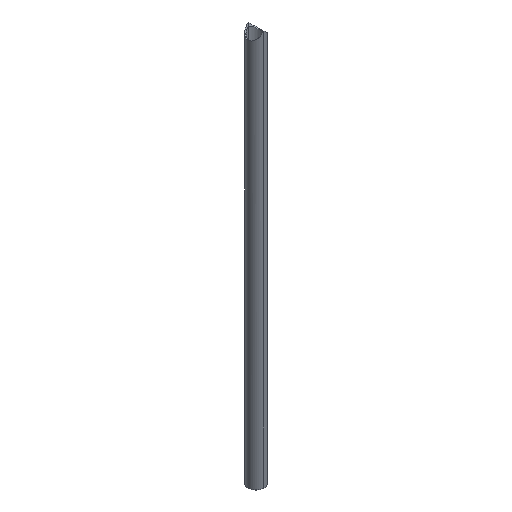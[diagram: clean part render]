
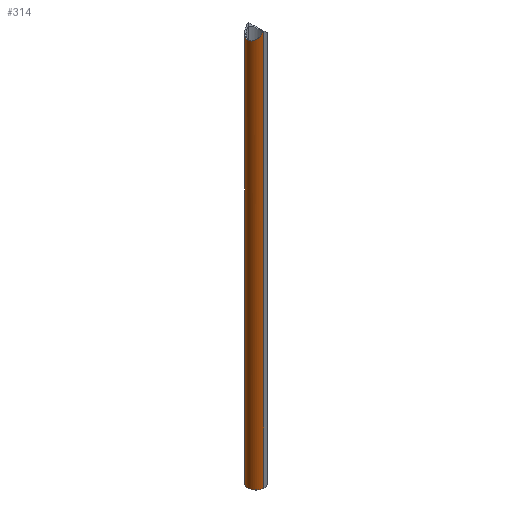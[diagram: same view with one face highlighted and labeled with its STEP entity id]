
A CAD part, isometric view. The second image highlights one B-rep face of the part: STEP entity #314.
In plain terms, the highlighted cylindrical face has radius 24.15 mm (diameter 48.3 mm), a partial arc.
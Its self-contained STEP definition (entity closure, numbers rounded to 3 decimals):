
#7 = FACE_OUTER_BOUND ( 'NONE', #196, .T. ) ;
#25 = VECTOR ( 'NONE', #59, 1000. ) ;
#41 = CARTESIAN_POINT ( 'NONE',  ( 7979., -71., 3495.85 ) ) ;
#44 = CARTESIAN_POINT ( 'NONE',  ( 7930.7, -71., 3447.55 ) ) ;
#46 = ORIENTED_EDGE ( 'NONE', *, *, #151, .T. ) ;
#48 = VECTOR ( 'NONE', #295, 1000. ) ;
#59 = DIRECTION ( 'NONE',  ( 0., 0., -1. ) ) ;
#66 = CARTESIAN_POINT ( 'NONE',  ( 7979., -71., 3495.85 ) ) ;
#68 = VERTEX_POINT ( 'NONE', #238 ) ;
#80 = CIRCLE ( 'NONE', #289, 24.15 ) ;
#84 = CARTESIAN_POINT ( 'NONE',  ( 7979., -95.15, 2290. ) ) ;
#93 = DIRECTION ( 'NONE',  ( 0., 1., 0. ) ) ;
#111 = CARTESIAN_POINT ( 'NONE',  ( 7930.7, -119.3, 3447.55 ) ) ;
#113 = DIRECTION ( 'NONE',  ( 0., 0., 1. ) ) ;
#117 = CYLINDRICAL_SURFACE ( 'NONE', #332, 24.15 ) ;
#118 = EDGE_CURVE ( 'NONE', #303, #146, #249, .T. ) ;
#144 = CARTESIAN_POINT ( 'NONE',  ( 7979., -119.3, 3495.85 ) ) ;
#146 = VERTEX_POINT ( 'NONE', #144 ) ;
#151 = EDGE_CURVE ( 'NONE', #303, #175, #163, .T. ) ;
#163 = LINE ( 'NONE', #41, #48 ) ;
#171 = CARTESIAN_POINT ( 'NONE',  ( 7979., -71., 3495.85 ) ) ;
#175 = VERTEX_POINT ( 'NONE', #271 ) ;
#194 = DIRECTION ( 'NONE',  ( 1., 0., 0. ) ) ;
#196 = EDGE_LOOP ( 'NONE', ( #220, #252, #46, #301 ) ) ;
#220 = ORIENTED_EDGE ( 'NONE', *, *, #234, .F. ) ;
#221 = CARTESIAN_POINT ( 'NONE',  ( 7979., -95.15, 3495.85 ) ) ;
#232 = EDGE_CURVE ( 'NONE', #175, #68, #80, .T. ) ;
#234 = EDGE_CURVE ( 'NONE', #146, #68, #293, .T. ) ;
#238 = CARTESIAN_POINT ( 'NONE',  ( 7979., -119.3, 2290. ) ) ;
#240 = CARTESIAN_POINT ( 'NONE',  ( 7979., -119.3, 3495.85 ) ) ;
#242 = CARTESIAN_POINT ( 'NONE',  ( 7979., -119.3, 3495.85 ) ) ;
#249 =( BOUNDED_CURVE ( )  B_SPLINE_CURVE ( 3, ( #66, #44, #111, #242 ),
 .UNSPECIFIED., .F., .T. ) 
 B_SPLINE_CURVE_WITH_KNOTS ( ( 4, 4 ),
 ( 4.712, 7.854 ),
 .UNSPECIFIED. ) 
 CURVE ( )  GEOMETRIC_REPRESENTATION_ITEM ( )  RATIONAL_B_SPLINE_CURVE ( ( 1., 0.333, 0.333, 1. ) ) 
 REPRESENTATION_ITEM ( '' )  );
#252 = ORIENTED_EDGE ( 'NONE', *, *, #118, .F. ) ;
#271 = CARTESIAN_POINT ( 'NONE',  ( 7979., -71., 2290. ) ) ;
#289 = AXIS2_PLACEMENT_3D ( 'NONE', #84, #113, #194 ) ;
#293 = LINE ( 'NONE', #240, #25 ) ;
#295 = DIRECTION ( 'NONE',  ( 0., 0., -1. ) ) ;
#301 = ORIENTED_EDGE ( 'NONE', *, *, #232, .T. ) ;
#303 = VERTEX_POINT ( 'NONE', #171 ) ;
#314 = ADVANCED_FACE ( 'NONE', ( #7 ), #117, .T. ) ;
#329 = DIRECTION ( 'NONE',  ( 0., 0., -1. ) ) ;
#332 = AXIS2_PLACEMENT_3D ( 'NONE', #221, #329, #93 ) ;
